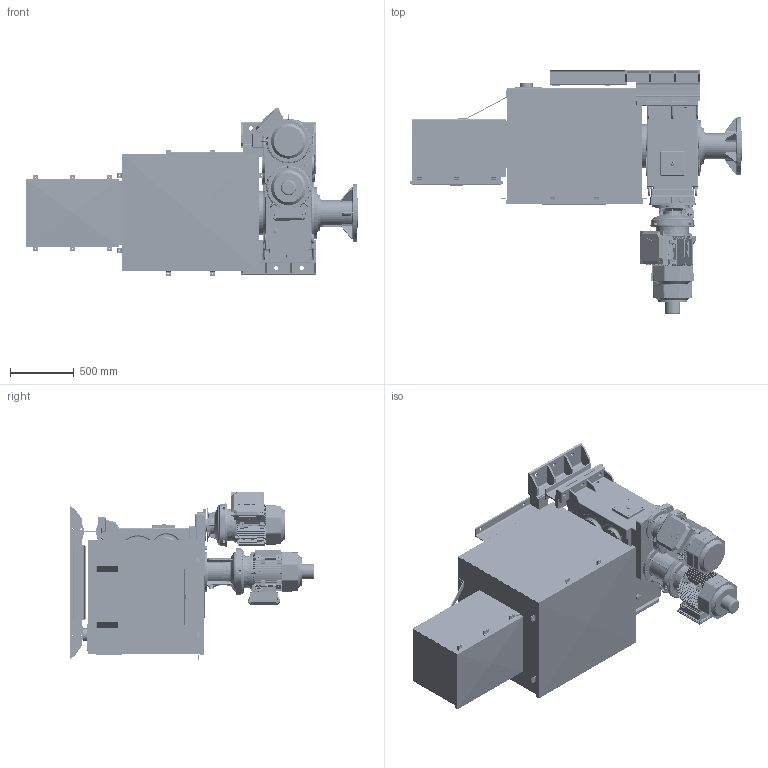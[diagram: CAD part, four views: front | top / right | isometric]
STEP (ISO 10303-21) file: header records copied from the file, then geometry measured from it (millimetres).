
FILE_DESCRIPTION(/* description */ (''),/* implementation_level */ '2;1');
FILE_NAME(/* name */ 'K:\NEMANJA\CABLE REEL\CABLE REEL DA\0700-6\07006005 DA-CRVD\STEP\75988.stp',/* time_stamp */ '2017-03-16T15:55:03+01:00',/* author */ ('zeldjo01'),/* organization */ ('Hillmar Industries Ltd.'),/* preprocessor_version */ 'ST-DEVELOPER v16.1',/* originating_system */ 'Autodesk Inventor 2016',/* authorisation */ '');
FILE_SCHEMA (('AUTOMOTIVE_DESIGN { 1 0 10303 214 3 1 1 }'));
Products named in the file (1): 75988
Bounding box: 2608.27 x 1923.09 x 1317.08 mm (x, y, z)
Volume: 211501280.1 mm3; surface area: 31870268.1 mm2
Topology: 14 solids, 17 shells, 7541 faces, 19384 edges, 12200 vertices
Faces by surface type: plane 3407, cylinder 2128, bspline 607, cone 604, torus 514, sphere 281
Full cylindrical faces by diameter (mm): 8 x5, 8.376 x38, 8.731 x1, 9 x3, 10 x21, 10.106 x46, 10.4 x4, 10.5 x18, 11 x32, 12 x25, 12.5 x3, 13 x18, 13.5 x16, 13.835 x32, 14 x33, 14.3 x8, 16 x2, 17 x8, 17.5 x16, 18 x1, 18.256 x1, 19 x8, 20 x4, 20.5 x1, 21.336 x1, 22 x16, 22.225 x1, 23 x2, 23.376 x1, 23.812 x2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
Entity records: 253129 total; most frequent: CARTESIAN_POINT 69059, DIRECTION 36671, ORIENTED_EDGE 36072, EDGE_CURVE 18008, AXIS2_PLACEMENT_3D 13650, VERTEX_POINT 11668, LINE 9371, VECTOR 9371
